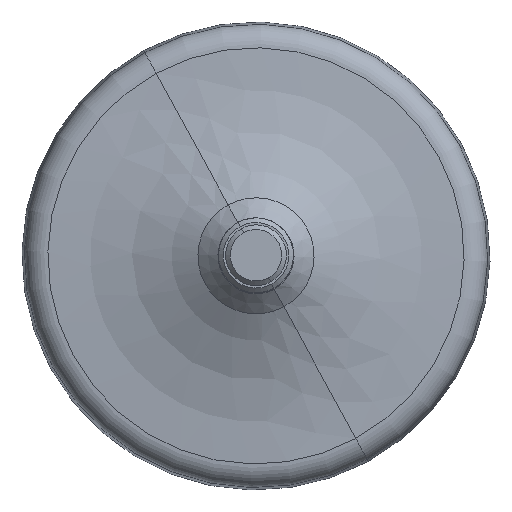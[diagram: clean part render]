
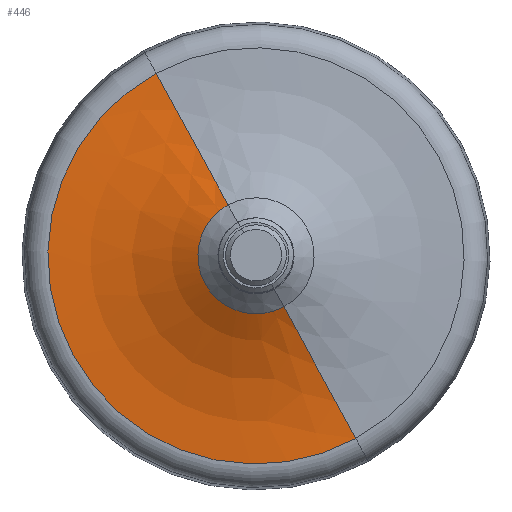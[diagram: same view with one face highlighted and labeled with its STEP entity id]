
A CAD part, top view. The second image highlights one B-rep face of the part: STEP entity #446.
In plain terms, the highlighted face is a revolution surface.
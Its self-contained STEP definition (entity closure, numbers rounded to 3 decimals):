
#377=CARTESIAN_POINT('Vertex',(21.315,-39.017,20.)) ;
#380=CARTESIAN_POINT('Axis2P3D Location',(0.,0.,20.)) ;
#384=CARTESIAN_POINT('Vertex',(-21.315,39.017,20.)) ;
#412=CARTESIAN_POINT('Control Point',(-4.794,8.776,29.559)) ;
#413=CARTESIAN_POINT('Control Point',(-8.498,15.555,24.83)) ;
#414=CARTESIAN_POINT('Control Point',(-12.623,23.107,21.537)) ;
#415=CARTESIAN_POINT('Control Point',(-16.973,31.069,19.927)) ;
#416=CARTESIAN_POINT('Control Point',(-21.315,39.017,20.)) ;
#417=CARTESIAN_POINT('Axis1P Location',(0.,0.,84.998)) ;
#421=CARTESIAN_POINT('Axis2P3D Location',(21.063,-38.556,84.998)) ;
#425=CARTESIAN_POINT('Vertex',(4.794,-8.776,29.559)) ;
#428=CARTESIAN_POINT('Axis2P3D Location',(0.,0.,29.559)) ;
#432=CARTESIAN_POINT('Vertex',(-4.794,8.776,29.559)) ;
#435=CARTESIAN_POINT('Axis2P3D Location',(-21.063,38.556,84.998)) ;
#381=DIRECTION('Axis2P3D Direction',(0.,0.,1.)) ;
#418=DIRECTION('Axis1P Direction',(-0.,-0.,-1.)) ;
#422=DIRECTION('Axis2P3D Direction',(-0.878,-0.479,0.)) ;
#429=DIRECTION('Axis2P3D Direction',(0.,0.,1.)) ;
#436=DIRECTION('Axis2P3D Direction',(0.878,0.479,-0.)) ;
#382=AXIS2_PLACEMENT_3D('Circle Axis2P3D',#380,#381,$) ;
#423=AXIS2_PLACEMENT_3D('Circle Axis2P3D',#421,#422,$) ;
#430=AXIS2_PLACEMENT_3D('Circle Axis2P3D',#428,#429,$) ;
#437=AXIS2_PLACEMENT_3D('Circle Axis2P3D',#435,#436,$) ;
#441=ORIENTED_EDGE('',*,*,#427,.T.) ;
#442=ORIENTED_EDGE('',*,*,#434,.F.) ;
#443=ORIENTED_EDGE('',*,*,#439,.F.) ;
#444=ORIENTED_EDGE('',*,*,#386,.T.) ;
#446=ADVANCED_FACE('PartBody',(#445),#420,.T.) ;
#419=AXIS1_PLACEMENT('Revolution Surface Axis1P',#417,#418) ;
#411=B_SPLINE_CURVE_WITH_KNOTS('',4,(#412,#413,#414,#415,#416),.UNSPECIFIED.,.F.,.U.,(5,5),(-137.804,-101.576),.UNSPECIFIED.) ;
#383=CIRCLE('generated circle',#382,44.46) ;
#424=CIRCLE('generated circle',#423,65.) ;
#431=CIRCLE('generated circle',#430,10.) ;
#438=CIRCLE('generated circle',#437,65.) ;
#386=EDGE_CURVE('',#385,#378,#383,.T.) ;
#427=EDGE_CURVE('',#378,#426,#424,.F.) ;
#434=EDGE_CURVE('',#433,#426,#431,.T.) ;
#439=EDGE_CURVE('',#385,#433,#438,.F.) ;
#440=EDGE_LOOP('',(#441,#442,#443,#444)) ;
#445=FACE_OUTER_BOUND('',#440,.T.) ;
#420=SURFACE_OF_REVOLUTION('homeo Torus',#411,#419) ;
#378=VERTEX_POINT('',#377) ;
#385=VERTEX_POINT('',#384) ;
#426=VERTEX_POINT('',#425) ;
#433=VERTEX_POINT('',#432) ;
